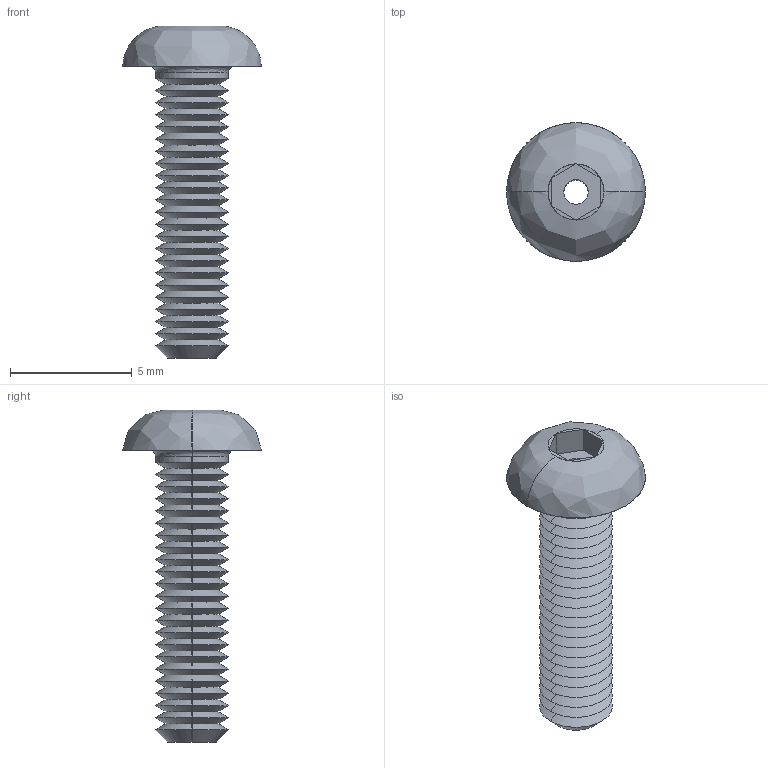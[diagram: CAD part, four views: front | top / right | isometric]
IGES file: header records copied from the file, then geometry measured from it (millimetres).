
Start section: SolidWorks IGES file using analytic representation for surfaces
Global section: file name: C:\Users\liam_\OneDrive\Documents\WORK\Work for WixRoyd\Job Files\J-00019 - Matt Davis CAD Checking\04. CAD Drawings\automotion20190605\P0094_v2\P0094_v2_20190712_IGES\P0094.030-012-A2.igs; native system: SolidWorks 2017; preprocessor: SolidWorks 2017; author: liam_; date: 190712.175152; units: millimetre
Bounding box: 5.7 x 5.7 x 13.65 mm (x, y, z)
Surface area: 294.3 mm2 (no closed solid volume)
Topology: 0 solids, 0 shells, 113 faces, 610 edges, 610 vertices
Faces by surface type: revolution 94, bspline 19
